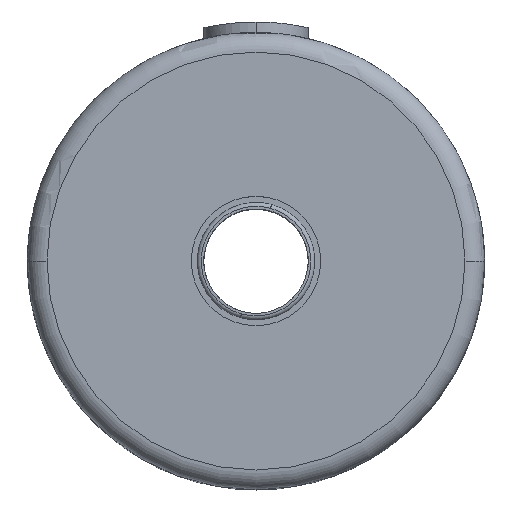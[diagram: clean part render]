
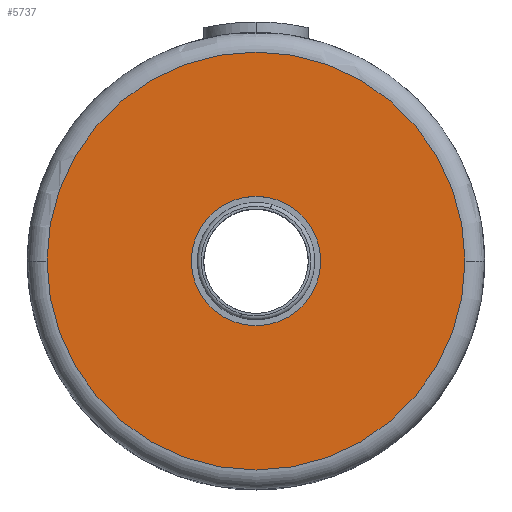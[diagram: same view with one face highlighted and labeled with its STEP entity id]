
A CAD part, top view. The second image highlights one B-rep face of the part: STEP entity #5737.
In plain terms, the highlighted planar face has unit normal (0, 0, 1).
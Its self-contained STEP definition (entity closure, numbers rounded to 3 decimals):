
#175 = DIRECTION ( 'NONE',  ( 1., 0., 0. ) ) ;
#251 = EDGE_LOOP ( 'NONE', ( #3172, #4493 ) ) ;
#432 = AXIS2_PLACEMENT_3D ( 'NONE', #1620, #4075, #1781 ) ;
#840 = DIRECTION ( 'NONE',  ( 0., 0., -1. ) ) ;
#1408 = AXIS2_PLACEMENT_3D ( 'NONE', #3160, #840, #175 ) ;
#1620 = CARTESIAN_POINT ( 'NONE',  ( -6.372, 2.581, 53.246 ) ) ;
#1781 = DIRECTION ( 'NONE',  ( 1., 0., 0. ) ) ;
#1993 = CIRCLE ( 'NONE', #6299, 16. ) ;
#2222 = CARTESIAN_POINT ( 'NONE',  ( 9.628, 2.581, 53.246 ) ) ;
#2570 = VERTEX_POINT ( 'NONE', #5034 ) ;
#2706 = EDGE_CURVE ( 'NONE', #2570, #4782, #1993, .T. ) ;
#2851 = DIRECTION ( 'NONE',  ( 0., 0., 1. ) ) ;
#2939 = DIRECTION ( 'NONE',  ( 1., 0., 0. ) ) ;
#3064 = CARTESIAN_POINT ( 'NONE',  ( -11.322, 2.581, 53.246 ) ) ;
#3160 = CARTESIAN_POINT ( 'NONE',  ( -6.372, 2.581, 53.246 ) ) ;
#3161 = AXIS2_PLACEMENT_3D ( 'NONE', #4584, #6947, #7640 ) ;
#3172 = ORIENTED_EDGE ( 'NONE', *, *, #5595, .T. ) ;
#3205 = FACE_BOUND ( 'NONE', #5945, .T. ) ;
#3807 = EDGE_CURVE ( 'NONE', #5040, #5369, #7595, .T. ) ;
#3868 = CIRCLE ( 'NONE', #1408, 4.95 ) ;
#3907 = AXIS2_PLACEMENT_3D ( 'NONE', #6372, #2851, #7026 ) ;
#4075 = DIRECTION ( 'NONE',  ( 0., 0., -1. ) ) ;
#4131 = CIRCLE ( 'NONE', #3907, 16. ) ;
#4493 = ORIENTED_EDGE ( 'NONE', *, *, #2706, .T. ) ;
#4584 = CARTESIAN_POINT ( 'NONE',  ( -6.372, 2.581, 53.246 ) ) ;
#4782 = VERTEX_POINT ( 'NONE', #2222 ) ;
#5034 = CARTESIAN_POINT ( 'NONE',  ( -22.372, 2.581, 53.246 ) ) ;
#5040 = VERTEX_POINT ( 'NONE', #3064 ) ;
#5201 = ORIENTED_EDGE ( 'NONE', *, *, #3807, .T. ) ;
#5369 = VERTEX_POINT ( 'NONE', #5731 ) ;
#5571 = PLANE ( 'NONE',  #432 ) ;
#5595 = EDGE_CURVE ( 'NONE', #4782, #2570, #4131, .T. ) ;
#5731 = CARTESIAN_POINT ( 'NONE',  ( -1.422, 2.581, 53.246 ) ) ;
#5737 = ADVANCED_FACE ( 'NONE', ( #7453, #3205 ), #5571, .F. ) ;
#5850 = CARTESIAN_POINT ( 'NONE',  ( -6.372, 2.581, 53.246 ) ) ;
#5926 = DIRECTION ( 'NONE',  ( 0., 0., 1. ) ) ;
#5945 = EDGE_LOOP ( 'NONE', ( #6034, #5201 ) ) ;
#6033 = EDGE_CURVE ( 'NONE', #5369, #5040, #3868, .T. ) ;
#6034 = ORIENTED_EDGE ( 'NONE', *, *, #6033, .T. ) ;
#6299 = AXIS2_PLACEMENT_3D ( 'NONE', #5850, #5926, #2939 ) ;
#6372 = CARTESIAN_POINT ( 'NONE',  ( -6.372, 2.581, 53.246 ) ) ;
#6947 = DIRECTION ( 'NONE',  ( 0., 0., -1. ) ) ;
#7026 = DIRECTION ( 'NONE',  ( 1., 0., 0. ) ) ;
#7453 = FACE_OUTER_BOUND ( 'NONE', #251, .T. ) ;
#7595 = CIRCLE ( 'NONE', #3161, 4.95 ) ;
#7640 = DIRECTION ( 'NONE',  ( 1., 0., 0. ) ) ;
